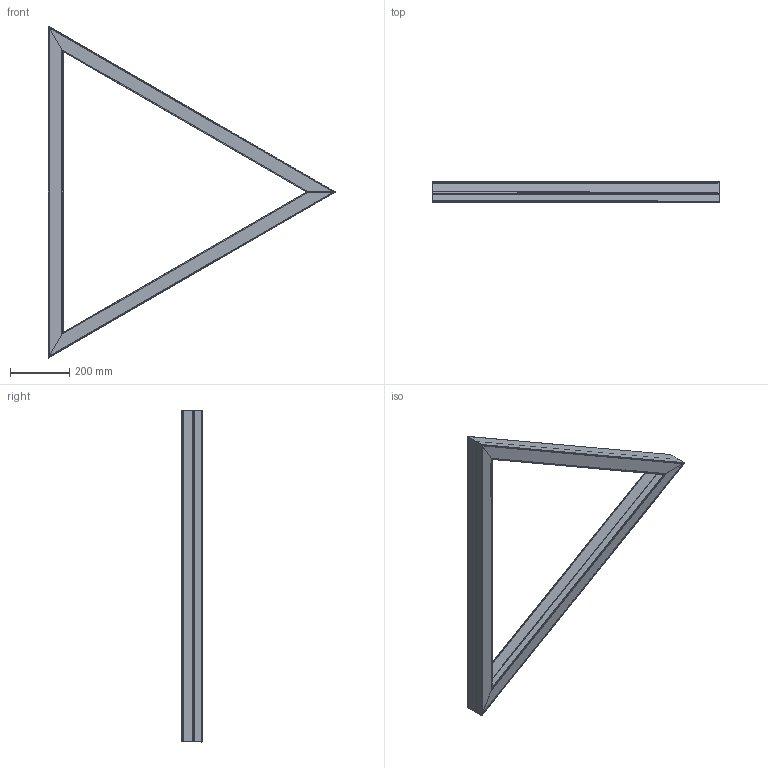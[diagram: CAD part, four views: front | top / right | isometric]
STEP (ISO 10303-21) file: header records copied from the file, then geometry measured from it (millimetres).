
FILE_DESCRIPTION(('STEP AP203'), '1');
FILE_NAME('Ìèêêî Àï 60Âò', '', ('UNSPECIFIED'), ('UNSPECIFIED'), 'ASCON STEP Converter 1.6', 'ASCON Math Kernel', '');
FILE_SCHEMA(('CONFIG_CONTROL_DESIGN'));
Length unit declared in the file: millimetre
Assembly tree (3 placements, depth 2):
  (unnamed)
    (unnamed)
    (unnamed)
    (unnamed)
Bounding box: 972.55 x 70 x 1123 mm (x, y, z)
Volume: 1349431.7 mm3; surface area: 2070526.6 mm2
Topology: 7 solids, 7 shells, 608 faces, 1777 edges, 1184 vertices
Faces by surface type: cylinder 350, plane 256, torus 2
Full cylindrical faces by diameter (mm): 8 x1, 10 x2, 14 x2
Entity records: 20252 total; most frequent: CARTESIAN_POINT 5730, ORIENTED_EDGE 3540, DIRECTION 2318, EDGE_CURVE 1770, VERTEX_POINT 1184, LINE 1066, VECTOR 1066, AXIS2_PLACEMENT_3D 626
